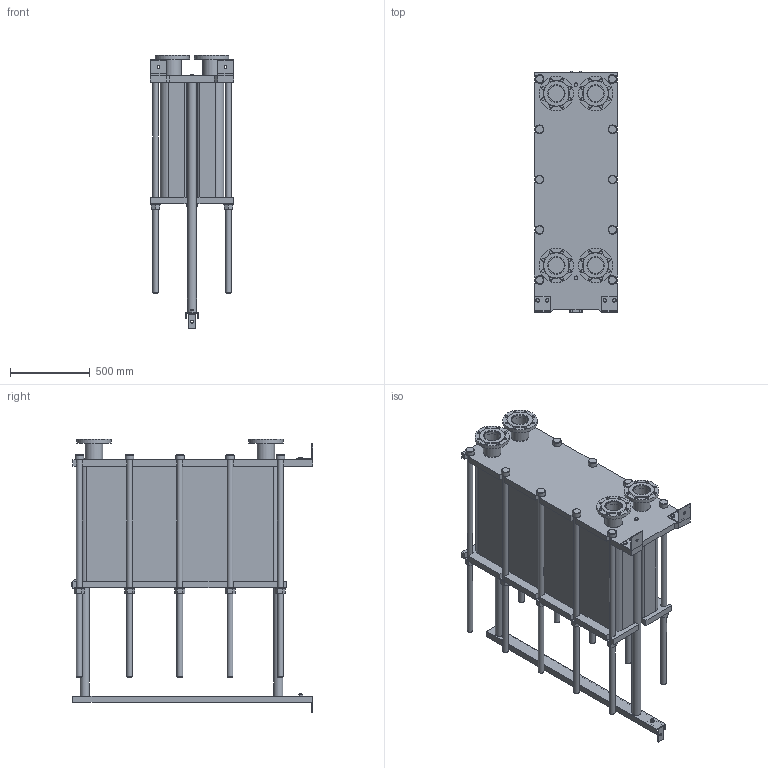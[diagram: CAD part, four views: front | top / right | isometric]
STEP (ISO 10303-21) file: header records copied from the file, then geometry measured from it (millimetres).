
FILE_DESCRIPTION(/* description */ (''),/* implementation_level */ '2;1');
FILE_NAME(/* name */ 'C:\Users\zhuro\Desktop\ENCO\TO\ЭН-04\ЭН-0,5-04-209-1.stp',/* time_stamp */ '2022-06-06T11:04:26+03:00',/* author */ ('zhuro'),/* organization */ (''),/* preprocessor_version */ 'ST-DEVELOPER v18.1',/* originating_system */ 'Autodesk Inventor 2022',/* authorisation */ '');
FILE_SCHEMA (('AUTOMOTIVE_DESIGN { 1 0 10303 214 3 1 1 }'));
Length unit declared in the file: millimetre
Products named in the file (1): ЭН-0,5-04-209-1
Bounding box: 520 x 1510 x 1714.5 mm (x, y, z)
Volume: 437422605.4 mm3; surface area: 10752182.3 mm2
Topology: 45 solids, 45 shells, 668 faces, 1611 edges, 1048 vertices
Faces by surface type: plane 457, cylinder 166, cone 39, torus 6
Full cylindrical faces by diameter (mm): 8 x4, 10 x2, 16 x8, 18 x35, 36 x25, 40 x2, 42 x1, 45 x4, 54 x10, 57 x2, 60 x10, 68 x2, 100 x4, 110 x8, 215 x4
Entity records: 23607 total; most frequent: CARTESIAN_POINT 7348, DIRECTION 3371, ORIENTED_EDGE 3142, EDGE_CURVE 1571, AXIS2_PLACEMENT_3D 1199, VERTEX_POINT 1044, LINE 973, VECTOR 973
